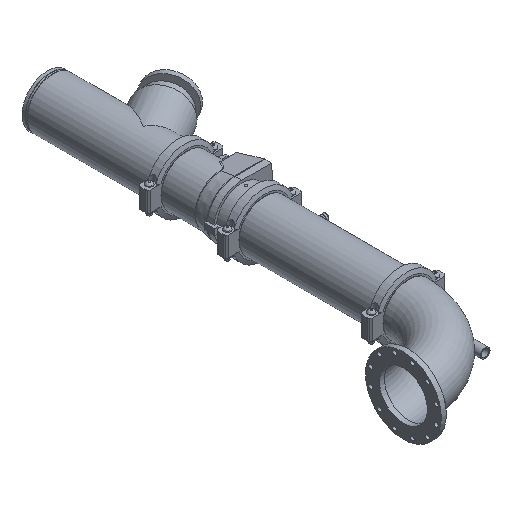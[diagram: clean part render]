
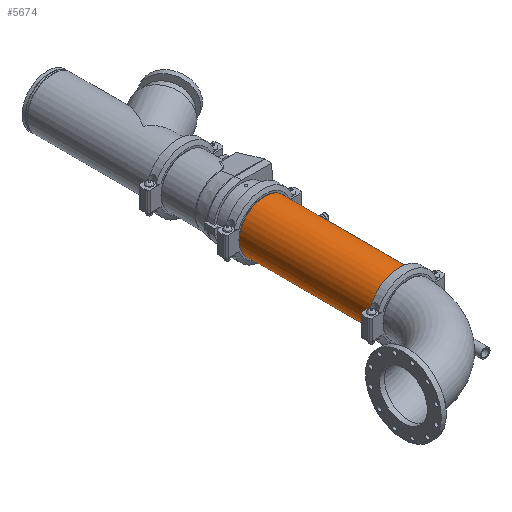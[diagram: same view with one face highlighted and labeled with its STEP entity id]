
A CAD part, isometric view. The second image highlights one B-rep face of the part: STEP entity #5674.
In plain terms, the highlighted cylindrical face has radius 161.925 mm (diameter 323.85 mm), a full revolution.
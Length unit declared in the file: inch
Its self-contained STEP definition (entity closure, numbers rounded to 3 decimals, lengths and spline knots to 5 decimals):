
#150=LINE('',#8660,#553);
#553=VECTOR('',#6889,6.375);
#956=CYLINDRICAL_SURFACE('',#6182,6.375);
#1161=FACE_OUTER_BOUND('',#1481,.T.);
#1481=EDGE_LOOP('',(#3581,#3582,#3583,#3584,#3585,#3586));
#1892=CIRCLE('',#6180,6.375);
#1893=CIRCLE('',#6181,6.375);
#1894=CIRCLE('',#6183,6.375);
#1895=CIRCLE('',#6184,6.375);
#2229=VERTEX_POINT('',#8651);
#2230=VERTEX_POINT('',#8652);
#2231=VERTEX_POINT('',#8656);
#2232=VERTEX_POINT('',#8657);
#2777=EDGE_CURVE('',#2229,#2230,#1892,.T.);
#2778=EDGE_CURVE('',#2230,#2229,#1893,.T.);
#2779=EDGE_CURVE('',#2231,#2232,#1894,.T.);
#2780=EDGE_CURVE('',#2232,#2231,#1895,.T.);
#2781=EDGE_CURVE('',#2232,#2230,#150,.T.);
#3581=ORIENTED_EDGE('',*,*,#2779,.F.);
#3582=ORIENTED_EDGE('',*,*,#2780,.F.);
#3583=ORIENTED_EDGE('',*,*,#2781,.T.);
#3584=ORIENTED_EDGE('',*,*,#2778,.T.);
#3585=ORIENTED_EDGE('',*,*,#2777,.T.);
#3586=ORIENTED_EDGE('',*,*,#2781,.F.);
#5674=ADVANCED_FACE('',(#1161),#956,.T.);
#6180=AXIS2_PLACEMENT_3D('',#8653,#6879,#6880);
#6181=AXIS2_PLACEMENT_3D('',#8654,#6881,#6882);
#6182=AXIS2_PLACEMENT_3D('',#8655,#6883,#6884);
#6183=AXIS2_PLACEMENT_3D('',#8658,#6885,#6886);
#6184=AXIS2_PLACEMENT_3D('',#8659,#6887,#6888);
#6879=DIRECTION('center_axis',(1.,0.,0.));
#6880=DIRECTION('ref_axis',(0.,0.,-1.));
#6881=DIRECTION('center_axis',(1.,0.,0.));
#6882=DIRECTION('ref_axis',(0.,0.,-1.));
#6883=DIRECTION('center_axis',(1.,0.,0.));
#6884=DIRECTION('ref_axis',(0.,1.,0.));
#6885=DIRECTION('center_axis',(1.,0.,0.));
#6886=DIRECTION('ref_axis',(0.,0.,-1.));
#6887=DIRECTION('center_axis',(1.,0.,0.));
#6888=DIRECTION('ref_axis',(0.,0.,-1.));
#6889=DIRECTION('',(-1.,0.,0.));
#8651=CARTESIAN_POINT('',(-16.77725,6.375,0.));
#8652=CARTESIAN_POINT('',(-16.77725,-6.375,0.));
#8653=CARTESIAN_POINT('Origin',(-16.77725,0.,0.));
#8654=CARTESIAN_POINT('Origin',(-16.77725,0.,0.));
#8655=CARTESIAN_POINT('Origin',(0.,0.,0.));
#8656=CARTESIAN_POINT('',(16.77725,6.375,0.));
#8657=CARTESIAN_POINT('',(16.77725,-6.375,0.));
#8658=CARTESIAN_POINT('Origin',(16.77725,0.,0.));
#8659=CARTESIAN_POINT('Origin',(16.77725,0.,0.));
#8660=CARTESIAN_POINT('',(0.,-6.375,0.));
